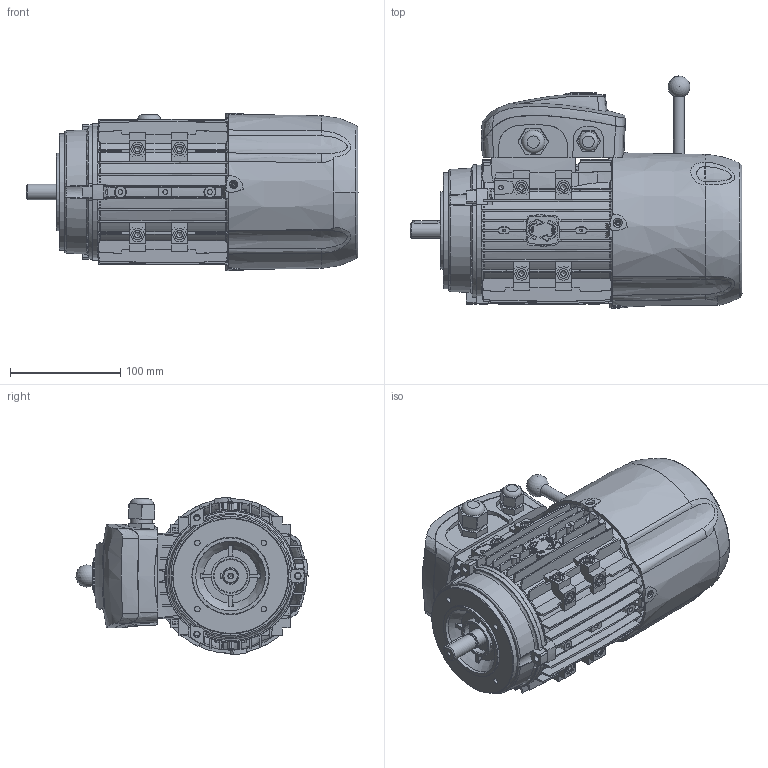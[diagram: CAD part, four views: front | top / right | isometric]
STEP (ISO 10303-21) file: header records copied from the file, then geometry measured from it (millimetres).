
FILE_DESCRIPTION((''),'2;1');
FILE_NAME('D:\htdocs\motive\source_step\M71.stp','2014-09-02T16:39:23',('ing.Casini'),(''),'Autodesk Inventor 2010','Autodesk Inventor 2010','');
FILE_SCHEMA(('AUTOMOTIVE_DESIGN { 1 0 10303 214 1 1 1 1 }'));
Length unit declared in the file: millimetre
Products named in the file (6): M71 Lighter motor Assly_14.08; BODY71; B1471; SH71; TBOXATDC63_80; FCVATDC71
Assembly tree (5 placements, depth 2):
  M71 Lighter motor Assly_14.08
    BODY71
    B1471
    SH71
    TBOXATDC63_80
    FCVATDC71
Bounding box: 300.52 x 210.02 x 142.2 mm (x, y, z)
Volume: 744600.6 mm3; surface area: 440377.2 mm2
Topology: 7 solids, 7 shells, 2223 faces, 6313 edges, 4197 vertices
Faces by surface type: plane 807, bspline 543, cylinder 426, cone 286, torus 160, sphere 1
Full cylindrical faces by diameter (mm): 2.5 x4, 3.3 x4, 4.2 x19, 5 x26, 5.4 x3, 5.8 x3, 8.5 x12, 10 x1, 10.418 x1, 13.3 x1, 14 x1, 15 x2, 16 x1, 20 x1, 25 x1, 28 x1, 30 x1, 35 x2, 63 x1, 70 x1, 105 x1, 110 x1, 111 x2, 112 x1
Entity records: 110849 total; most frequent: CARTESIAN_POINT 58094, ORIENTED_EDGE 12182, DIRECTION 9126, EDGE_CURVE 6091, VERTEX_POINT 4136, AXIS2_PLACEMENT_3D 3476, EDGE_LOOP 2535, FACE_OUTER_BOUND 2222
